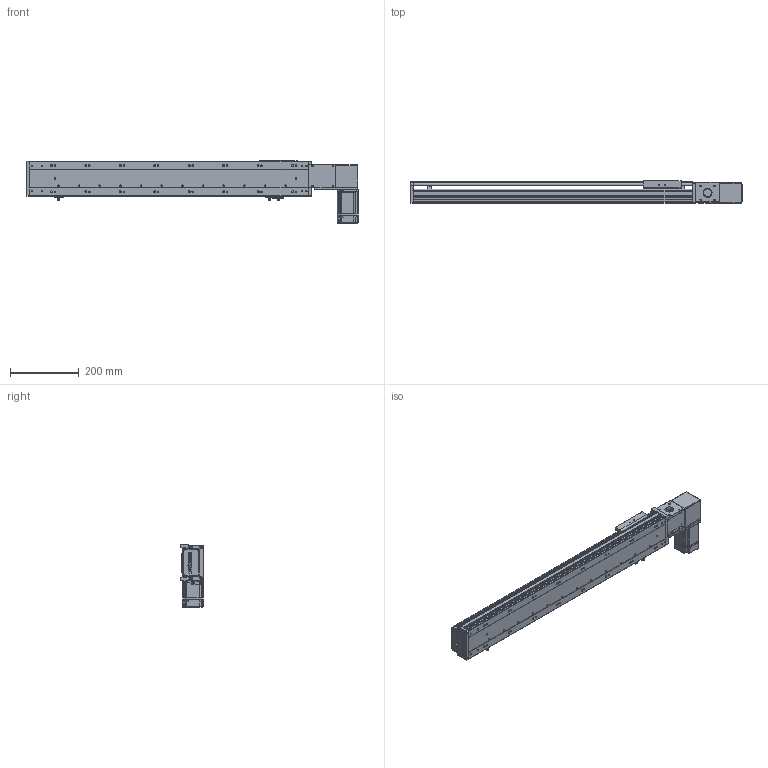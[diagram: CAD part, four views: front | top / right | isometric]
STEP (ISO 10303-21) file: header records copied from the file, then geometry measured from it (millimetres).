
FILE_DESCRIPTION (( 'STEP AP203' ), '1' );
FILE_NAME ('RY100-T-300-LK.SLDASM_600.step', '2024-04-25T05:36:58', ( '盈信电脑' ), ( '东莞市道滘镇水果街19号' ), 'SwSTEP 2.0', 'SolidWorks 2016', '' );
FILE_SCHEMA (( 'CONFIG_CONTROL_DESIGN' ));
Length unit declared in the file: millimetre
Products named in the file (13): RY100-T翋肮祭謫裔啣2; 覜茼ん672; 1; RY100-T肮祭謫翋盓傅釱; RY80-T肮祭謫俋欶; RY100綴裔啣; RY100-T-300-RK倰第奻裔_600; RY100俋离覜茼え; RY100-T肮祭謫臏賑輸; 滅袉蝶18-10; RY100-T左右折电机安装板; RY100-T-300-RK倰第菁釱_600; RY100-T-300-LK.SLDASM_600
Assembly tree (16 placements, depth 2):
  RY100-T-300-LK.SLDASM_600
    RY100-T-300-RK倰第菁釱_600
    RY100-T-300-RK倰第奻裔_600
    RY100-T肮祭謫臏賑輸
    RY100綴裔啣
    覜茼ん672  x3
    RY100俋离覜茼え
    RY100-T肮祭謫翋盓傅釱
    滅袉蝶18-10  x2
    RY100-T翋肮祭謫裔啣2  x2
    RY80-T肮祭謫俋欶
    RY100-T左右折电机安装板
    1
Bounding box: 964 x 66 x 182.5 mm (x, y, z)
Volume: 1971308.3 mm3; surface area: 789301.8 mm2
Topology: 16 solids, 16 shells, 2158 faces, 6026 edges, 3916 vertices
Faces by surface type: plane 1178, cylinder 769, cone 133, bspline 78
Entity records: 68978 total; most frequent: CARTESIAN_POINT 16901, ORIENTED_EDGE 10788, DIRECTION 10198, EDGE_CURVE 5394, VERTEX_POINT 3552, LINE 3498, VECTOR 3498, AXIS2_PLACEMENT_3D 3350
